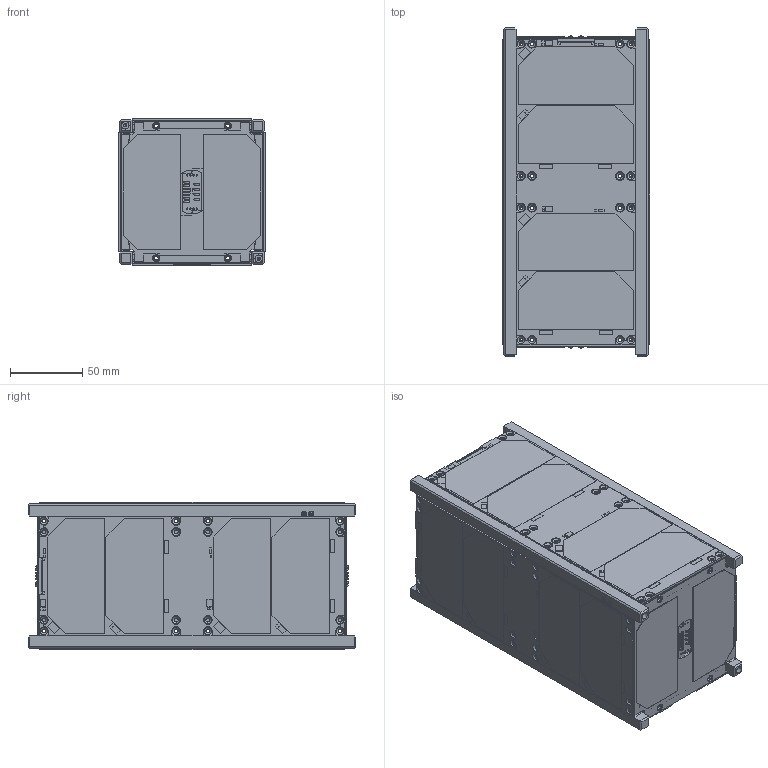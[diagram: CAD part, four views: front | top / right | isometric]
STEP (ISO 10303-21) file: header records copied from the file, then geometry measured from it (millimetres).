
FILE_DESCRIPTION((''),'2;1');
FILE_NAME('ISIS_ISPA_2U_ASSY_ASM','2017-07-05T',('jmig'),(''),'PRO/ENGINEER BY PARAMETRIC TECHNOLOGY CORPORATION, 2015110','PRO/ENGINEER BY PARAMETRIC TECHNOLOGY CORPORATION, 2015110','');
FILE_SCHEMA(('AUTOMOTIVE_DESIGN { 1 0 10303 214 1 1 1 1 }'));
Products named in the file (4): ISIS_STS_2U_ASM; ISIS_ISPA_2U_BMSP; ISIS_ISPA_TOP_SOLAR_PANEL; ISIS_ISPA_2U_ASSY_ASM
Assembly tree (7 placements, depth 2):
  ISIS_ISPA_2U_ASSY_ASM
    ISIS_STS_2U_ASM
    ISIS_ISPA_2U_BMSP  x4
    ISIS_ISPA_TOP_SOLAR_PANEL  x2
Bounding box: 101.96 x 227 x 101.96 mm (x, y, z)
Volume: 205596.5 mm3; surface area: 266281.7 mm2
Topology: 7 solids, 7 shells, 4194 faces, 11082 edges, 7012 vertices
Faces by surface type: plane 2272, cylinder 1074, cone 804, torus 44
Entity records: 120814 total; most frequent: CARTESIAN_POINT 42487, ORIENTED_EDGE 16030, DIRECTION 15111, EDGE_CURVE 8015, AXIS2_PLACEMENT_3D 5111, VERTEX_POINT 5054, VECTOR 4877, LINE 4877
